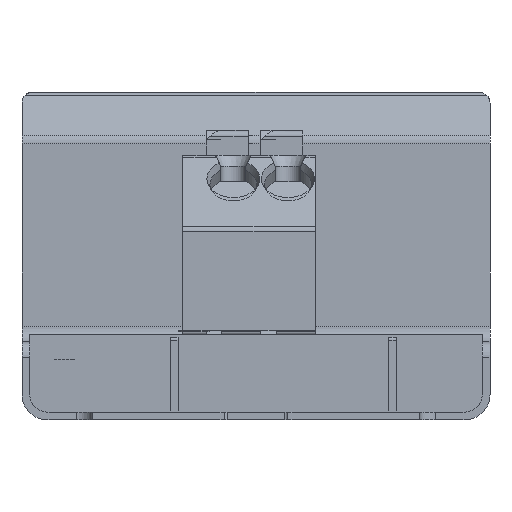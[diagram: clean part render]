
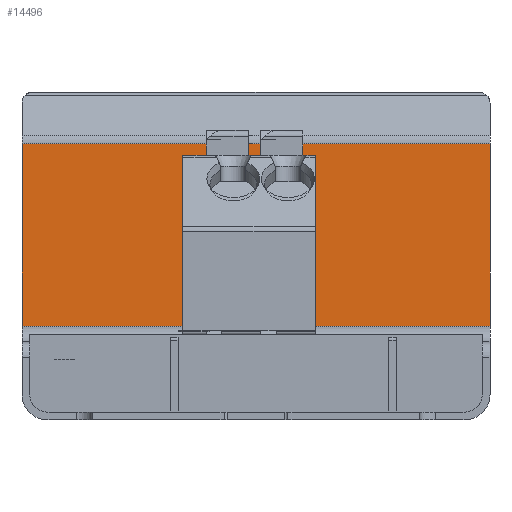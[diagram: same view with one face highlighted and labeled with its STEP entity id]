
A CAD part, front view. The second image highlights one B-rep face of the part: STEP entity #14496.
In plain terms, the highlighted planar face has unit normal (0, -1, 0).
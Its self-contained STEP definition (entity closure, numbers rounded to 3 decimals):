
#1722=DIRECTION('',(1.,0.,0.));
#1723=VECTOR('',#1722,30.);
#1724=CARTESIAN_POINT('',(-116.477,181.819,26.452));
#1725=LINE('',#1724,#1723);
#4587=DIRECTION('',(0.,0.,1.));
#4588=VECTOR('',#4587,11.71);
#4589=CARTESIAN_POINT('',(-116.477,181.819,26.452));
#4590=LINE('',#4589,#4588);
#4594=DIRECTION('',(0.,0.,-1.));
#4595=VECTOR('',#4594,11.71);
#4596=CARTESIAN_POINT('',(-86.477,181.819,38.162));
#4597=LINE('',#4596,#4595);
#4601=DIRECTION('',(-1.,0.,0.));
#4602=VECTOR('',#4601,30.);
#4603=CARTESIAN_POINT('',(-86.477,181.819,38.162));
#4604=LINE('',#4603,#4602);
#8873=CARTESIAN_POINT('',(-116.477,181.819,38.162));
#8874=VERTEX_POINT('',#8873);
#8875=CARTESIAN_POINT('',(-116.477,181.819,26.452));
#8876=VERTEX_POINT('',#8875);
#8939=CARTESIAN_POINT('',(-86.477,181.819,26.452));
#8940=VERTEX_POINT('',#8939);
#8941=CARTESIAN_POINT('',(-86.477,181.819,38.162));
#8942=VERTEX_POINT('',#8941);
#14484=CARTESIAN_POINT('',(-116.477,181.819,
25.902));
#14485=DIRECTION('',(0.,-1.,0.));
#14486=DIRECTION('',(0.,0.,1.));
#14487=AXIS2_PLACEMENT_3D('',#14484,#14485,#14486);
#14488=PLANE('',#14487);
#14489=ORIENTED_EDGE('',*,*,#11255,.F.);
#14490=ORIENTED_EDGE('',*,*,#10636,.T.);
#14492=ORIENTED_EDGE('',*,*,#14491,.F.);
#14493=ORIENTED_EDGE('',*,*,#10786,.T.);
#14494=EDGE_LOOP('',(#14489,#14490,#14492,#14493));
#14495=FACE_OUTER_BOUND('',#14494,.F.);
#10636=EDGE_CURVE('',#8876,#8874,#4590,.T.);
#10786=EDGE_CURVE('',#8942,#8940,#4597,.T.);
#11255=EDGE_CURVE('',#8876,#8940,#1725,.T.);
#14491=EDGE_CURVE('',#8942,#8874,#4604,.T.);
#14496=ADVANCED_FACE('',(#14495),#14488,.T.);
